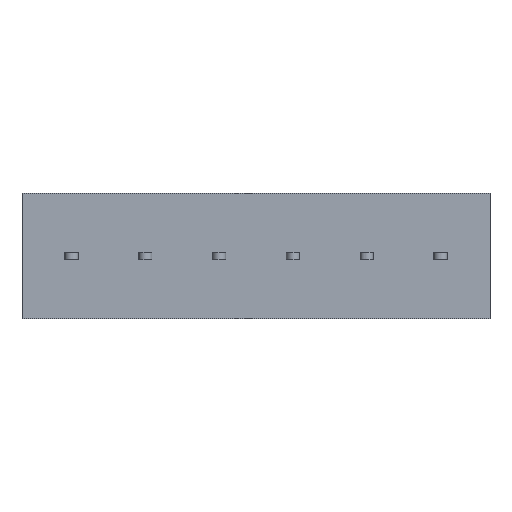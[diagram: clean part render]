
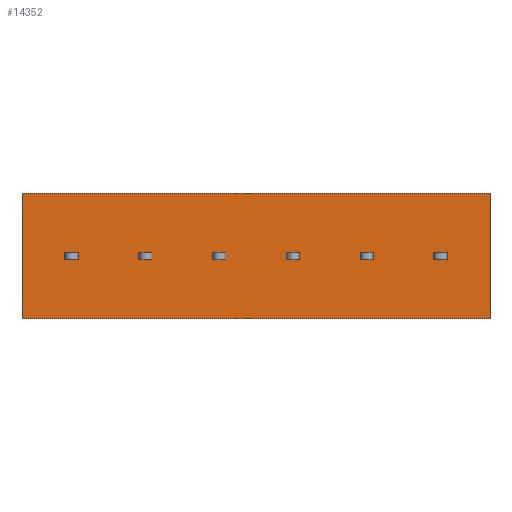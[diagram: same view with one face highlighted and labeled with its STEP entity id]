
A CAD part, front view. The second image highlights one B-rep face of the part: STEP entity #14352.
In plain terms, the highlighted planar face has unit normal (0, -1, 0).
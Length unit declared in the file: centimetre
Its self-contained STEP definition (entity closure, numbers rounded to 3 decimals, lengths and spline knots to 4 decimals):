
#672=VECTOR('',#15716,1.);
#676=VECTOR('',#15721,1.);
#701=VECTOR('',#15777,1.);
#703=VECTOR('',#15780,1.);
#722=VECTOR('',#15820,1.);
#726=VECTOR('',#15825,1.);
#737=VECTOR('',#15858,1.);
#739=VECTOR('',#15861,1.);
#784=VECTOR('',#16010,1.);
#788=VECTOR('',#16015,1.);
#813=VECTOR('',#16071,1.);
#815=VECTOR('',#16074,1.);
#856=VECTOR('',#16228,1.);
#860=VECTOR('',#16233,1.);
#885=VECTOR('',#16289,1.);
#887=VECTOR('',#16292,1.);
#928=VECTOR('',#16446,1.);
#932=VECTOR('',#16451,1.);
#957=VECTOR('',#16507,1.);
#959=VECTOR('',#16510,1.);
#1060=VECTOR('',#16763,1.);
#1354=VECTOR('',#17367,1.);
#1358=VECTOR('',#17372,1.);
#1369=VECTOR('',#17405,1.);
#1371=VECTOR('',#17408,1.);
#1780=VECTOR('',#17956,1.);
#1816=VECTOR('',#18011,1.);
#1817=VECTOR('',#18012,1.);
#2266=LINE('',#18779,#672);
#2270=LINE('',#18788,#676);
#2295=LINE('',#18859,#701);
#2297=LINE('',#18863,#703);
#2316=LINE('',#18910,#722);
#2320=LINE('',#18919,#726);
#2331=LINE('',#18954,#737);
#2333=LINE('',#18958,#739);
#2378=LINE('',#19159,#784);
#2382=LINE('',#19168,#788);
#2407=LINE('',#19239,#813);
#2409=LINE('',#19243,#815);
#2450=LINE('',#19444,#856);
#2454=LINE('',#19453,#860);
#2479=LINE('',#19524,#885);
#2481=LINE('',#19528,#887);
#2522=LINE('',#19729,#928);
#2526=LINE('',#19738,#932);
#2551=LINE('',#19809,#957);
#2553=LINE('',#19813,#959);
#2654=LINE('',#20151,#1060);
#2948=LINE('',#20942,#1354);
#2952=LINE('',#20951,#1358);
#2963=LINE('',#20986,#1369);
#2965=LINE('',#20990,#1371);
#3374=LINE('',#22501,#1780);
#3410=LINE('',#22581,#1816);
#3411=LINE('',#22582,#1817);
#3880=VERTEX_POINT('',#18780);
#3881=VERTEX_POINT('',#18781);
#3884=VERTEX_POINT('',#18789);
#3912=VERTEX_POINT('',#18860);
#3925=VERTEX_POINT('',#18911);
#3926=VERTEX_POINT('',#18912);
#3929=VERTEX_POINT('',#18920);
#3940=VERTEX_POINT('',#18955);
#3990=VERTEX_POINT('',#19160);
#3991=VERTEX_POINT('',#19161);
#3994=VERTEX_POINT('',#19169);
#4022=VERTEX_POINT('',#19240);
#4072=VERTEX_POINT('',#19445);
#4073=VERTEX_POINT('',#19446);
#4076=VERTEX_POINT('',#19454);
#4104=VERTEX_POINT('',#19525);
#4154=VERTEX_POINT('',#19730);
#4155=VERTEX_POINT('',#19731);
#4158=VERTEX_POINT('',#19739);
#4186=VERTEX_POINT('',#19810);
#4278=VERTEX_POINT('',#20137);
#4285=VERTEX_POINT('',#20150);
#4538=VERTEX_POINT('',#20943);
#4539=VERTEX_POINT('',#20944);
#4542=VERTEX_POINT('',#20952);
#4553=VERTEX_POINT('',#20987);
#4892=VERTEX_POINT('',#22500);
#4893=VERTEX_POINT('',#22502);
#5588=EDGE_CURVE('',#3880,#3881,#2266,.T.);
#5592=EDGE_CURVE('',#3884,#3880,#2270,.T.);
#5627=EDGE_CURVE('',#3912,#3884,#2295,.T.);
#5629=EDGE_CURVE('',#3881,#3912,#2297,.T.);
#5652=EDGE_CURVE('',#3925,#3926,#2316,.T.);
#5656=EDGE_CURVE('',#3929,#3925,#2320,.T.);
#5673=EDGE_CURVE('',#3940,#3929,#2331,.T.);
#5675=EDGE_CURVE('',#3926,#3940,#2333,.T.);
#5756=EDGE_CURVE('',#3990,#3991,#2378,.T.);
#5760=EDGE_CURVE('',#3994,#3990,#2382,.T.);
#5795=EDGE_CURVE('',#4022,#3994,#2407,.T.);
#5797=EDGE_CURVE('',#3991,#4022,#2409,.T.);
#5878=EDGE_CURVE('',#4072,#4073,#2450,.T.);
#5882=EDGE_CURVE('',#4076,#4072,#2454,.T.);
#5917=EDGE_CURVE('',#4104,#4076,#2479,.T.);
#5919=EDGE_CURVE('',#4073,#4104,#2481,.T.);
#6000=EDGE_CURVE('',#4154,#4155,#2522,.T.);
#6004=EDGE_CURVE('',#4158,#4154,#2526,.T.);
#6039=EDGE_CURVE('',#4186,#4158,#2551,.T.);
#6041=EDGE_CURVE('',#4155,#4186,#2553,.T.);
#6190=EDGE_CURVE('',#4285,#4278,#2654,.T.);
#6566=EDGE_CURVE('',#4538,#4539,#2948,.T.);
#6570=EDGE_CURVE('',#4542,#4538,#2952,.T.);
#6587=EDGE_CURVE('',#4553,#4542,#2963,.T.);
#6589=EDGE_CURVE('',#4539,#4553,#2965,.T.);
#7102=EDGE_CURVE('',#4893,#4892,#3374,.T.);
#7142=EDGE_CURVE('',#4892,#4278,#3410,.T.);
#7143=EDGE_CURVE('',#4285,#4893,#3411,.T.);
#10828=ORIENTED_EDGE('',*,*,#5592,.T.);
#10829=ORIENTED_EDGE('',*,*,#5588,.T.);
#10830=ORIENTED_EDGE('',*,*,#5629,.T.);
#10831=ORIENTED_EDGE('',*,*,#5627,.T.);
#10832=ORIENTED_EDGE('',*,*,#5656,.T.);
#10833=ORIENTED_EDGE('',*,*,#5652,.T.);
#10834=ORIENTED_EDGE('',*,*,#5675,.T.);
#10835=ORIENTED_EDGE('',*,*,#5673,.T.);
#10836=ORIENTED_EDGE('',*,*,#5760,.T.);
#10837=ORIENTED_EDGE('',*,*,#5756,.T.);
#10838=ORIENTED_EDGE('',*,*,#5797,.T.);
#10839=ORIENTED_EDGE('',*,*,#5795,.T.);
#10840=ORIENTED_EDGE('',*,*,#5882,.T.);
#10841=ORIENTED_EDGE('',*,*,#5878,.T.);
#10842=ORIENTED_EDGE('',*,*,#5919,.T.);
#10843=ORIENTED_EDGE('',*,*,#5917,.T.);
#10844=ORIENTED_EDGE('',*,*,#6004,.T.);
#10845=ORIENTED_EDGE('',*,*,#6000,.T.);
#10846=ORIENTED_EDGE('',*,*,#6041,.T.);
#10847=ORIENTED_EDGE('',*,*,#6039,.T.);
#10848=ORIENTED_EDGE('',*,*,#6570,.T.);
#10849=ORIENTED_EDGE('',*,*,#6566,.T.);
#10850=ORIENTED_EDGE('',*,*,#6589,.T.);
#10851=ORIENTED_EDGE('',*,*,#6587,.T.);
#10852=ORIENTED_EDGE('',*,*,#7142,.T.);
#10853=ORIENTED_EDGE('',*,*,#6190,.F.);
#10854=ORIENTED_EDGE('',*,*,#7143,.T.);
#10855=ORIENTED_EDGE('',*,*,#7102,.T.);
#12636=EDGE_LOOP('',(#10828,#10829,#10830,#10831));
#12637=EDGE_LOOP('',(#10832,#10833,#10834,#10835));
#12638=EDGE_LOOP('',(#10836,#10837,#10838,#10839));
#12639=EDGE_LOOP('',(#10840,#10841,#10842,#10843));
#12640=EDGE_LOOP('',(#10844,#10845,#10846,#10847));
#12641=EDGE_LOOP('',(#10848,#10849,#10850,#10851));
#12642=EDGE_LOOP('',(#10852,#10853,#10854,#10855));
#13528=FACE_BOUND('',#12636,.T.);
#13529=FACE_BOUND('',#12637,.T.);
#13530=FACE_BOUND('',#12638,.T.);
#13531=FACE_BOUND('',#12639,.T.);
#13532=FACE_BOUND('',#12640,.T.);
#13533=FACE_BOUND('',#12641,.T.);
#13534=FACE_BOUND('',#12642,.T.);
#14352=ADVANCED_FACE('',(#13528,#13529,#13530,#13531,#13532,#13533,#13534),
#24544,.T.);
#15420=AXIS2_PLACEMENT_3D('',#22580,#18010,$);
#15716=DIRECTION('',(0.,0.,1.));
#15721=DIRECTION('',(-1.,0.,0.));
#15777=DIRECTION('',(0.,0.,-1.));
#15780=DIRECTION('',(1.,0.,0.));
#15820=DIRECTION('',(0.,0.,1.));
#15825=DIRECTION('',(-1.,0.,0.));
#15858=DIRECTION('',(0.,0.,-1.));
#15861=DIRECTION('',(1.,0.,0.));
#16010=DIRECTION('',(0.,0.,1.));
#16015=DIRECTION('',(-1.,0.,0.));
#16071=DIRECTION('',(0.,0.,-1.));
#16074=DIRECTION('',(1.,0.,0.));
#16228=DIRECTION('',(0.,0.,1.));
#16233=DIRECTION('',(-1.,0.,0.));
#16289=DIRECTION('',(0.,0.,-1.));
#16292=DIRECTION('',(1.,0.,0.));
#16446=DIRECTION('',(0.,0.,1.));
#16451=DIRECTION('',(-1.,0.,0.));
#16507=DIRECTION('',(0.,0.,-1.));
#16510=DIRECTION('',(1.,0.,0.));
#16763=DIRECTION('',(0.,0.,-1.));
#17367=DIRECTION('',(0.,0.,1.));
#17372=DIRECTION('',(-1.,0.,0.));
#17405=DIRECTION('',(0.,0.,-1.));
#17408=DIRECTION('',(1.,0.,0.));
#17956=DIRECTION('',(0.,0.,-1.));
#18010=DIRECTION('',(0.,-1.,0.));
#18011=DIRECTION('',(1.,0.,0.));
#18012=DIRECTION('',(-1.,0.,0.));
#18779=CARTESIAN_POINT('',(4.5,0.,-0.175));
#18780=CARTESIAN_POINT('',(4.5,0.,-0.05));
#18781=CARTESIAN_POINT('',(4.5,0.,0.05));
#18788=CARTESIAN_POINT('',(2.295,0.,-0.05));
#18789=CARTESIAN_POINT('',(4.68,0.,-0.05));
#18859=CARTESIAN_POINT('',(4.68,0.,-0.175));
#18860=CARTESIAN_POINT('',(4.68,0.,0.05));
#18863=CARTESIAN_POINT('',(2.295,0.,0.05));
#18910=CARTESIAN_POINT('',(5.5,0.,-0.175));
#18911=CARTESIAN_POINT('',(5.5,0.,-0.05));
#18912=CARTESIAN_POINT('',(5.5,0.,0.05));
#18919=CARTESIAN_POINT('',(2.795,0.,-0.05));
#18920=CARTESIAN_POINT('',(5.68,0.,-0.05));
#18954=CARTESIAN_POINT('',(5.68,0.,-0.175));
#18955=CARTESIAN_POINT('',(5.68,0.,0.05));
#18958=CARTESIAN_POINT('',(2.795,0.,0.05));
#19159=CARTESIAN_POINT('',(3.5,0.,-0.175));
#19160=CARTESIAN_POINT('',(3.5,0.,-0.05));
#19161=CARTESIAN_POINT('',(3.5,0.,0.05));
#19168=CARTESIAN_POINT('',(1.795,0.,-0.05));
#19169=CARTESIAN_POINT('',(3.68,0.,-0.05));
#19239=CARTESIAN_POINT('',(3.68,0.,-0.175));
#19240=CARTESIAN_POINT('',(3.68,0.,0.05));
#19243=CARTESIAN_POINT('',(1.795,0.,0.05));
#19444=CARTESIAN_POINT('',(2.5,0.,-0.175));
#19445=CARTESIAN_POINT('',(2.5,0.,-0.05));
#19446=CARTESIAN_POINT('',(2.5,0.,0.05));
#19453=CARTESIAN_POINT('',(1.295,0.,-0.05));
#19454=CARTESIAN_POINT('',(2.68,0.,-0.05));
#19524=CARTESIAN_POINT('',(2.68,0.,-0.175));
#19525=CARTESIAN_POINT('',(2.68,0.,0.05));
#19528=CARTESIAN_POINT('',(1.295,0.,0.05));
#19729=CARTESIAN_POINT('',(1.5,0.,-0.175));
#19730=CARTESIAN_POINT('',(1.5,0.,-0.05));
#19731=CARTESIAN_POINT('',(1.5,0.,0.05));
#19738=CARTESIAN_POINT('',(0.795,0.,-0.05));
#19739=CARTESIAN_POINT('',(1.68,0.,-0.05));
#19809=CARTESIAN_POINT('',(1.68,0.,-0.175));
#19810=CARTESIAN_POINT('',(1.68,0.,0.05));
#19813=CARTESIAN_POINT('',(0.795,0.,0.05));
#20137=CARTESIAN_POINT('',(6.26,0.,-0.85));
#20150=CARTESIAN_POINT('',(6.26,0.,0.85));
#20151=CARTESIAN_POINT('',(6.26,0.,0.85));
#20942=CARTESIAN_POINT('',(0.5,0.,-0.175));
#20943=CARTESIAN_POINT('',(0.5,0.,-0.05));
#20944=CARTESIAN_POINT('',(0.5,0.,0.05));
#20951=CARTESIAN_POINT('',(0.295,0.,-0.05));
#20952=CARTESIAN_POINT('',(0.68,0.,-0.05));
#20986=CARTESIAN_POINT('',(0.68,0.,-0.175));
#20987=CARTESIAN_POINT('',(0.68,0.,0.05));
#20990=CARTESIAN_POINT('',(0.295,0.,0.05));
#22500=CARTESIAN_POINT('',(-0.08,0.,-0.85));
#22501=CARTESIAN_POINT('',(-0.08,0.,0.85));
#22502=CARTESIAN_POINT('',(-0.08,0.,0.85));
#22580=CARTESIAN_POINT('',(0.,0.,0.));
#22581=CARTESIAN_POINT('',(5.,0.,-0.85));
#22582=CARTESIAN_POINT('',(0.,0.,0.85));
#24544=PLANE('',#15420);
